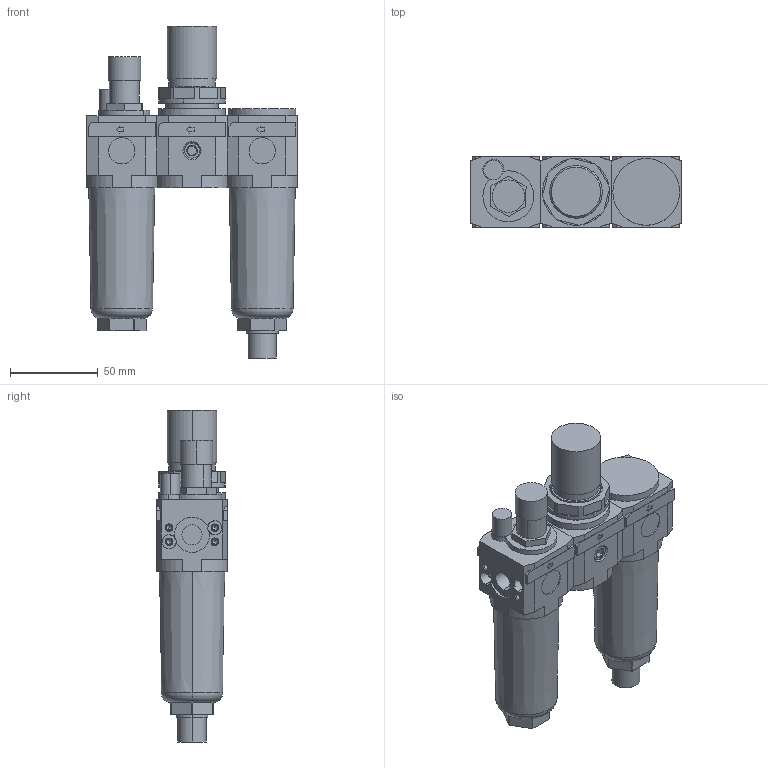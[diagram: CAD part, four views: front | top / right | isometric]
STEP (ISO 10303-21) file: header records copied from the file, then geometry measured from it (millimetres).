
FILE_DESCRIPTION((''),'2;1');
FILE_NAME('I:\DOC-EDP\Lib-3d\FRL\17107B_P.stp','2003-06-16T14:50:18',('maffial1'),(''),'Autodesk Inventor 7','Autodesk Inventor 7','');
FILE_SCHEMA(('AUTOMOTIVE_DESIGN { 1 0 10303 214 1 1 1 1 }'));
Length unit declared in the file: millimetre
Products named in the file (7): 17107B_P; 17101B_P; 17103B_P; 17102B_; 17102B_(1); RS_1701_12; RK_1701_020
Assembly tree (6 placements, depth 3):
  17107B_P
    17101B_P
    17103B_P
    17102B_
      17102B_(1)
      RS_1701_12
      RK_1701_020
Bounding box: 120 x 40 x 189 mm (x, y, z)
Volume: 387428.7 mm3; surface area: 74063.5 mm2
Topology: 5 solids, 11 shells, 535 faces, 1305 edges, 819 vertices
Faces by surface type: plane 187, bspline 166, cylinder 122, cone 52, torus 8
Entity records: 16848 total; most frequent: CARTESIAN_POINT 4510, ORIENTED_EDGE 2538, DIRECTION 2448, EDGE_CURVE 1269, AXIS2_PLACEMENT_3D 821, VERTEX_POINT 819, VECTOR 806, LINE 806
